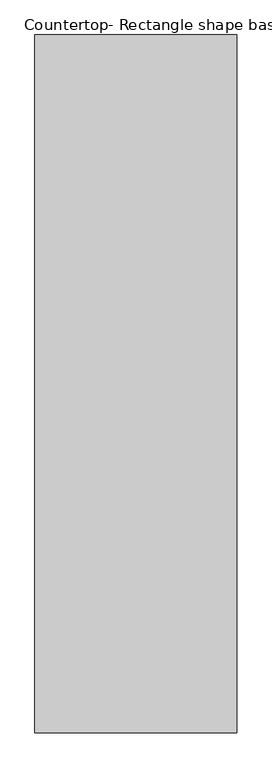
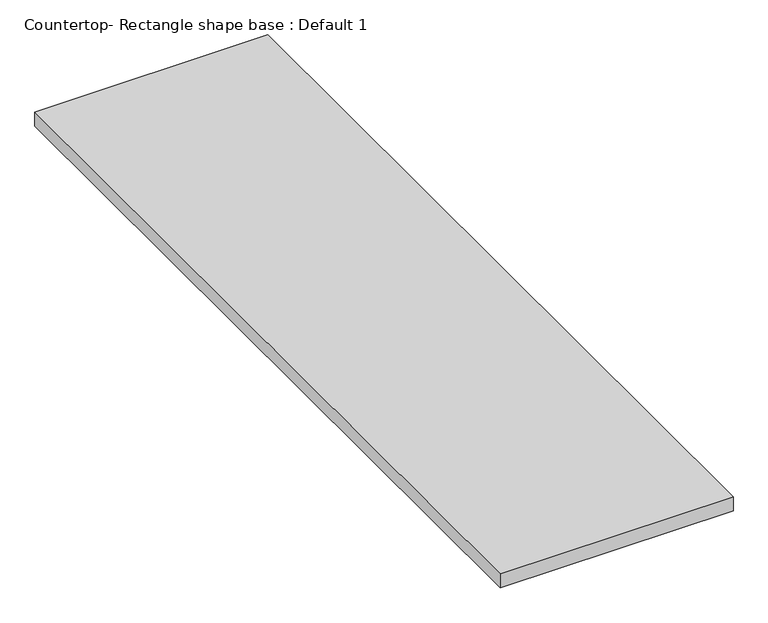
"""IFC4 building model written with IfcOpenShell, lengths in millimetres: furniture geometry, Countertop- Rectangle shape base : Default 1."""

from ifc_helpers import new_model, si_unit, frame, origin, place, context, project, spatial, polyline, outline, extrude, source, transform, mapped, element, save


def countertop_rectangle_shape_base_default_1_159de2fb(model_context):
    return source(origin(), model_context, "Body", "SweptSolid", [
        extrude(outline(polyline([(628.65, 323.85), (628.65, -1745.4546762), (30.091292, -1745.4546762), (30.091292, 323.85), (628.65, 323.85)])), frame((0.0, 0.0, 876.3), z_axis=(0.0, 0.0, 1.0), x_axis=(1.0, 0.0, 0.0)), (0.0, 0.0, 1.0), 38.1),
    ])


if __name__ == "__main__":
    model = new_model("IFC4")
    model_context = context("Model", 3, world=origin())
    ifc_project = project(units=[si_unit("LENGTHUNIT", "METRE", prefix="MILLI")], contexts=[model_context])
    site = spatial("IfcSite", under=ifc_project)
    building = spatial("IfcBuilding", under=site)
    placement = place(None, origin())
    countertop_rectangle_shape_base_default_1_shape = countertop_rectangle_shape_base_default_1_159de2fb(model_context)
    element("IfcFurniture", 1, ObjectType="Countertop- Rectangle shape base : Default 1", at=placement, inside=building, context=model_context, shape_type="MappedRepresentation", body=[
        mapped(countertop_rectangle_shape_base_default_1_shape, transform((0.0, 0.0, 0.0), x_axis=(1.0, 0.0, 0.0), y_axis=(0.0, 1.0, 0.0), z_axis=(0.0, 0.0, 1.0))),
    ])
    save(model, "model.ifc")
